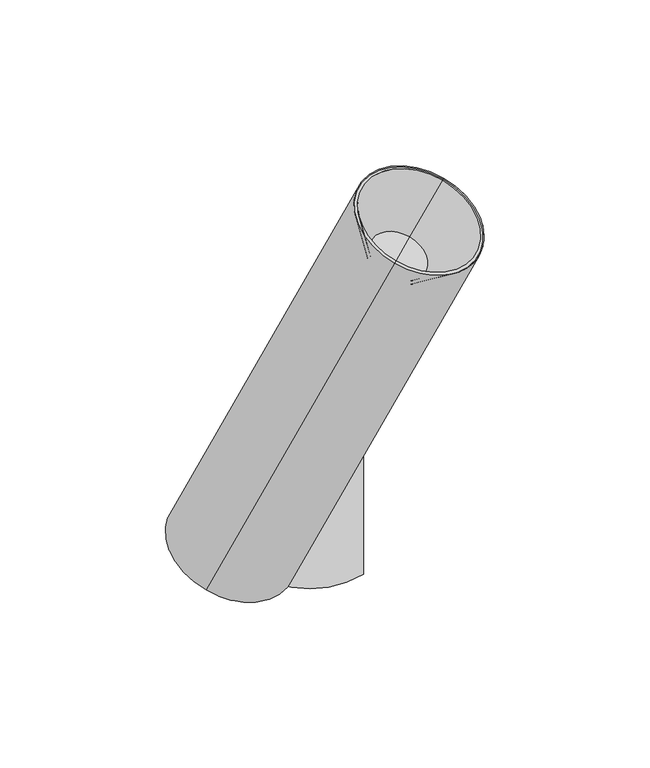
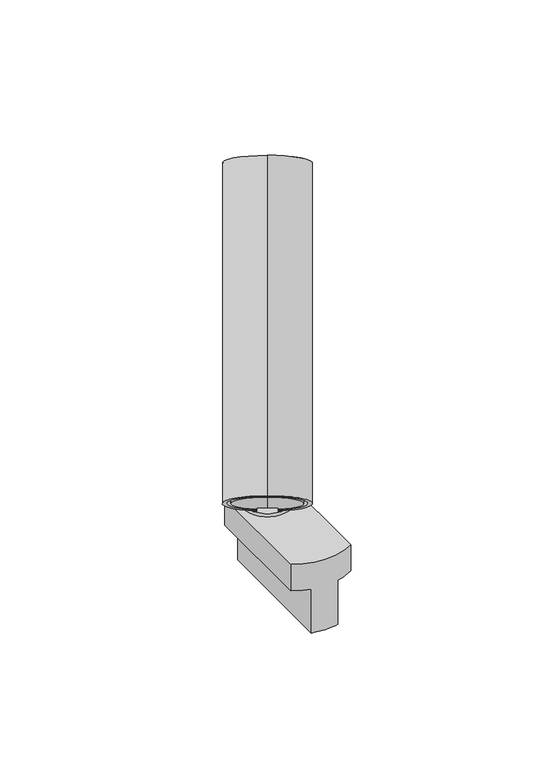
"""IFC4 building model written with IfcOpenShell, lengths in millimetres: light fixture geometry, PIPES T XS : 490lm 7,8W 930 38°."""

from ifc_helpers import new_model, si_unit, point, frame, frame_2d, origin, origin_2d, place, context, project, spatial, polyline, circle_curve, trimmed, segment, composite_curve, outline, extrude, source, transform, mapped, element, save
from ifc_brep_helpers import plane_surface, cylinder_surface, revolved_surface, advanced_brep


def light_fixture_6174c632(model_context):
    return source(origin(), model_context, "Body", "SolidModel", [
        extrude(outline(composite_curve([segment(polyline([(-39.7303383, 0.0), (-39.7303383, 8.0), (-36.7303383, 8.0), (-36.7303383, 10.0), (21.31827, 10.0), (21.31827, 2.0)]), True, "CONTINUOUS"), segment(trimmed(circle_curve(frame_2d((15.691322, 2.0)), 5.626948), [point((21.31827, 2.0))], [point((15.691322, -3.626948))], False, "CARTESIAN"), True, "CONTINUOUS"), segment(polyline([(15.691322, -3.626948), (9.8735653, -3.626948)]), True, "CONTINUOUS"), segment(trimmed(circle_curve(frame_2d((17.7182036, 2.2388678)), 9.7952104), [point((9.8735653, -3.626948))], [point((8.1822916, 0.0))], False, "CARTESIAN"), True, "CONTINUOUS"), segment(polyline([(8.1822916, 0.0), (-39.7303383, 0.0)]), True, "CONTINUOUS")], self_intersect=False)), frame((1.830127, -6.830127, 56.5303383), z_axis=(-0.8660254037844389, 0.49999999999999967, 0.0), x_axis=(0.0, 0.0, 1.0)), (0.0, 0.0, 1.0), 10.0),
        extrude(outline(composite_curve([segment(trimmed(circle_curve(origin_2d(), 12.5), [point((10.8253175, -6.25))], [point((-10.8253175, 6.25))], False, "CARTESIAN"), True, "CONTINUOUS"), segment(trimmed(circle_curve(origin_2d(), 12.5), [point((-10.8253175, 6.25))], [point((10.8253175, -6.25))], False, "CARTESIAN"), True, "CONTINUOUS")], self_intersect=False)), frame((0.0, 0.0, 15.0), z_axis=(0.0, 0.0, 1.0), x_axis=(1.0, 0.0, 0.0)), (0.0, 0.0, 1.0), 1.8),
        advanced_brep(
        [(-7.1153658, 15.2862846, -25.0), (7.1153658, 15.2862846, -25.0), (7.1153658, -53.3498174, -25.0), (-7.1153658, -53.3498174, -25.0), (-16.1153658, -49.7317664, 15.0), (16.1153658, -49.7317664, 15.0), (16.1153658, 11.6682336, 15.0), (-16.1153658, 11.6682336, 15.0), (-16.1153658, 11.6682336, 0.0), (-16.1153658, -49.7317664, 0.0), (16.1153658, 11.6682336, 0.0), (7.1153658, 15.2862846, 0.0), (-7.1153658, 15.2862846, 0.0), (16.1153658, -49.7317664, 0.0), (-7.1153658, -53.3498174, 0.0), (7.1153658, -53.3498174, 0.0)],
        [
            (0, 1, circle_curve(frame((0.0, -15.4162786, -25.0), z_axis=(0.0, 0.0, -1.0), x_axis=(1.0, 0.0, 0.0)), 31.5162786)),
            (1, 2),
            (2, 3, circle_curve(frame((0.0, -22.6472542, -25.0), z_axis=(0.0, 0.0, -1.0), x_axis=(1.0, 0.0, 0.0)), 31.5162786)),
            (3, 0),
            (4, 5, circle_curve(frame((0.0, -22.6472542, 15.0), z_axis=(0.0, 0.0, 1.0), x_axis=(1.0, 0.0, 0.0)), 31.5162786)),
            (5, 6),
            (6, 7, circle_curve(frame((0.0, -15.4162786, 15.0), z_axis=(0.0, 0.0, 1.0), x_axis=(1.0, 0.0, 0.0)), 31.5162786)),
            (7, 4),
            (7, 8),
            (8, 9),
            (9, 4),
            (6, 10),
            (10, 11, circle_curve(frame((0.0, -15.4162786, 0.0), z_axis=(0.0, 0.0, 1.0), x_axis=(1.0, 0.0, 0.0)), 31.5162786)),
            (11, 1),
            (0, 12),
            (12, 8, circle_curve(frame((0.0, -15.4162786, 0.0), z_axis=(0.0, 0.0, 1.0), x_axis=(1.0, 0.0, 0.0)), 31.5162786)),
            (5, 13),
            (13, 10),
            (9, 14, circle_curve(frame((0.0, -22.6472542, 0.0), z_axis=(0.0, 0.0, 1.0), x_axis=(1.0, 0.0, 0.0)), 31.5162786)),
            (14, 3),
            (2, 15),
            (15, 13, circle_curve(frame((0.0, -22.6472542, 0.0), z_axis=(0.0, 0.0, 1.0), x_axis=(1.0, 0.0, 0.0)), 31.5162786)),
            (12, 14),
            (15, 11),
        ],
        [
            plane_surface(frame((-16.1153658, 11.6883244, -25.0), z_axis=(0.0, 0.0, -1.0), x_axis=(0.0, -1.0, 0.0))),
            plane_surface(frame((-16.1153658, 11.6883244, 15.0), z_axis=(0.0, 0.0, 1.0), x_axis=(0.0, 1.0, 0.0))),
            plane_surface(frame((-16.1153658, -49.7317664, 15.0), z_axis=(-1.0, 0.0, 0.0), x_axis=(0.0, 0.0, -1.0))),
            cylinder_surface(frame((0.0, -15.4162786, -25.0), z_axis=(0.0, 0.0, 1.0), x_axis=(1.0, 0.0, 0.0)), 31.5162786),
            plane_surface(frame((16.1153658, 11.6682336, 15.0), z_axis=(1.0, 0.0, 0.0), x_axis=(0.0, 0.0, -1.0))),
            cylinder_surface(frame((0.0, -22.6472542, -25.0), z_axis=(0.0, 0.0, 1.0), x_axis=(1.0, 0.0, 0.0)), 31.5162786),
            plane_surface(frame((-7.1153658, -58.6979838, 0.0), z_axis=(0.0, 0.0, -1.0), x_axis=(-1.0, 0.0, 0.0))),
            plane_surface(frame((-7.1153658, 21.3020162, 0.0), z_axis=(-1.0, 0.0, 0.0), x_axis=(0.0, 0.0, -1.0))),
            plane_surface(frame((7.1153658, 11.6883244, 0.0), z_axis=(0.0, 0.0, -1.0), x_axis=(0.0, 1.0, 0.0))),
            plane_surface(frame((7.1153658, -58.6979838, 0.0), z_axis=(1.0, 0.0, 0.0), x_axis=(0.0, 0.0, -1.0))),
        ],
        [
            (0, [[1, 2, 3, 4]]),
            (1, [[5, 6, 7, 8]]),
            (2, [[9, 10, 11, -8]]),
            (3, [[12, 13, 14, -1, 15, 16, -9, -7]]),
            (4, [[17, 18, -12, -6]]),
            (5, [[-11, 19, 20, -3, 21, 22, -17, -5]]),
            (6, [[-19, -10, -16, 23]]),
            (7, [[-15, -4, -20, -23]]),
            (8, [[-13, -18, -22, 24]]),
            (9, [[-21, -2, -14, -24]]),
        ],
    ),
        advanced_brep(
        [(4.330127, -2.5, 80.0710678), (7.6521423, 3.2538992, 73.4270373), (-12.500401, -31.6513296, 33.1219508), (-13.2307628, -32.9163535, 34.5826745), (-11.1094425, -29.2421189, 38.8253152), (-13.7010959, -33.7309942, 44.008622), (-4.330127, 2.5, 80.0710678), (-22.3613499, -28.7309942, 44.008622), (-19.7696965, -24.2421189, 38.8253152), (-21.8910169, -27.9163535, 34.5826745), (-21.160655, -26.6513296, 33.1219508), (-1.0081118, 8.2538992, 73.4270373), (-18.0312229, -31.2309942, 44.008622), (3.5355339, 6.1237244, 73.0), (40.3050865, 69.8104577, 146.5391052), (-31.4662518, -54.5011468, 62.3933983), (25.4558441, 44.0908154, 176.2375901), (-30.759145, -53.2764019, 60.9791847), (-28.6378246, -49.6021673, 65.2218254), (-21.9203102, -37.967091, 51.7867966), (22.8041937, 39.4980221, 155.37794), (26.3397276, 45.6217465, 148.3068722), (29.8752615, 51.7454708, 141.2358044)],
        [
            (0, 1),
            (1, 2),
            (2, 3),
            (3, 4),
            (4, 5),
            (5, 0),
            (6, 7),
            (7, 8),
            (8, 9),
            (9, 10),
            (10, 11),
            (11, 6),
            (5, 12),
            (12, 7),
            (6, 0),
            (11, 13, circle_curve(frame((-3.8890873, -6.7360968, 87.8492424), z_axis=(-0.3535533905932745, -0.6123724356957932, -0.7071067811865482), x_axis=(0.3535533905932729, 0.612372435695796, -0.7071067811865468)), 21.0)),
            (13, 1, circle_curve(frame((-3.8890873, -6.7360968, 87.8492424), z_axis=(-0.3535533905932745, -0.6123724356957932, -0.7071067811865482), x_axis=(0.3535533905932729, 0.612372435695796, -0.7071067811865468)), 21.0)),
            (14, 13),
            (10, 15, circle_curve(frame((-24.0416306, -41.6413256, 47.5441559), z_axis=(0.3535533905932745, 0.6123724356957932, 0.7071067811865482), x_axis=(0.3535533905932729, 0.612372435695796, -0.7071067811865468)), 21.0)),
            (15, 16),
            (16, 14, circle_curve(frame((32.8804653, 56.9506365, 161.3883476), z_axis=(-0.3535533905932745, -0.6123724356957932, -0.7071067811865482), x_axis=(0.3535533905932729, 0.612372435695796, -0.7071067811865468)), 21.0)),
            (15, 2, circle_curve(frame((-24.0416306, -41.6413256, 47.5441559), z_axis=(0.3535533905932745, 0.6123724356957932, 0.7071067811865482), x_axis=(0.3535533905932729, 0.612372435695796, -0.7071067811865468)), 21.0)),
            (14, 16, circle_curve(frame((32.8804653, 56.9506365, 161.3883476), z_axis=(-0.3535533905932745, -0.6123724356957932, -0.7071067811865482), x_axis=(0.3535533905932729, 0.612372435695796, -0.7071067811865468)), 21.0)),
            (9, 17, circle_curve(frame((-24.0416306, -41.6413256, 47.5441559), z_axis=(0.3535533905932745, 0.6123724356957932, 0.7071067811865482), x_axis=(0.3535533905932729, 0.612372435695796, -0.7071067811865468)), 19.0)),
            (17, 15),
            (17, 3, circle_curve(frame((-24.0416306, -41.6413256, 47.5441559), z_axis=(0.3535533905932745, 0.6123724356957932, 0.7071067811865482), x_axis=(0.3535533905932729, 0.612372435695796, -0.7071067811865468)), 19.0)),
            (8, 18, circle_curve(frame((-21.9203102, -37.967091, 51.7867966), z_axis=(0.3535533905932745, 0.6123724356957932, 0.7071067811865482), x_axis=(0.3535533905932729, 0.612372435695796, -0.7071067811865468)), 19.0)),
            (18, 17),
            (18, 4, circle_curve(frame((-21.9203102, -37.967091, 51.7867966), z_axis=(0.3535533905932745, 0.6123724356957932, 0.7071067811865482), x_axis=(0.3535533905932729, 0.612372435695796, -0.7071067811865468)), 19.0)),
            (12, 19),
            (19, 18),
            (20, 21),
            (21, 22),
            (22, 20, circle_curve(frame((26.3397276, 45.6217465, 148.3068722), z_axis=(0.3535533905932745, 0.6123724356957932, 0.7071067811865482), x_axis=(0.3535533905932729, 0.612372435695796, -0.7071067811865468)), 10.0)),
            (20, 22, circle_curve(frame((26.3397276, 45.6217465, 148.3068722), z_axis=(0.3535533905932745, 0.6123724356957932, 0.7071067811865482), x_axis=(0.3535533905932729, 0.612372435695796, -0.7071067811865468)), 10.0)),
            (16, 20),
            (22, 14),
        ],
        [
            plane_surface(frame((4.330127, -2.5, 80.0710678), z_axis=(-0.8660254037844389, 0.4999999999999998, 0.0), x_axis=(0.3535533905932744, 0.6123724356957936, 0.7071067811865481))),
            plane_surface(frame((-4.330127, 2.5, 80.0710678), z_axis=(0.8660254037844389, -0.4999999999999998, 0.0), x_axis=(-0.3535533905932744, -0.6123724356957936, -0.7071067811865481))),
            plane_surface(frame((-4.330127, 2.5, 80.0710678), z_axis=(0.3535533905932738, 0.6123724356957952, -0.7071067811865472), x_axis=(0.8660254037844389, -0.4999999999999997, 0.0))),
            plane_surface(frame((2.7409408, 14.7474487, 65.9289322), z_axis=(-0.35355339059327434, -0.6123724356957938, -0.707106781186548), x_axis=(0.866025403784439, -0.4999999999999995, 0.0))),
            cylinder_surface(frame((-27.0299985, -46.8173307, 41.56742), z_axis=(-0.35355339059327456, -0.6123724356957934, -0.7071067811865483), x_axis=(0.3535533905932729, 0.612372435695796, -0.7071067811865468)), 21.0),
            plane_surface(frame((-24.0416306, -41.6413256, 47.5441559), z_axis=(-0.35355339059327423, -0.6123724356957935, -0.7071067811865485), x_axis=(0.3535533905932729, 0.612372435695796, -0.7071067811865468))),
            revolved_surface(polyline([(-17.32411615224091, -30.006249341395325, 34.10912701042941), (-15.202795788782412, -26.332014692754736, 38.35176773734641)]), (-27.0299985, -46.8173307, 41.56742), (-0.35355339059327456, -0.6123724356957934, -0.7071067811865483)),
            plane_surface(frame((-21.9203102, -37.967091, 51.7867966), z_axis=(-0.35355339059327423, -0.6123724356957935, -0.7071067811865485), x_axis=(0.3535533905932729, 0.612372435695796, -0.7071067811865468))),
            plane_surface(frame((26.3397276, 45.6217465, 148.3068722), z_axis=(0.35355339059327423, 0.6123724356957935, 0.7071067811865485), x_axis=(0.3535533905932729, 0.612372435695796, -0.7071067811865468))),
            revolved_surface(polyline([(29.8752615, 51.7454708, 141.2358044), (40.3050865, 69.8104577, 146.5391052)]), (-27.0299985, -46.8173307, 41.56742), (-0.35355339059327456, -0.6123724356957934, -0.7071067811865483)),
        ],
        [
            (0, [[1, 2, 3, 4, 5, 6]]),
            (1, [[7, 8, 9, 10, 11, 12]]),
            (2, [[-6, 13, 14, -7, 15]]),
            (3, [[-12, 16, 17, -1, -15]]),
            (4, [[18, -16, -11, 19, 20, 21]]),
            (4, [[22, -2, -17, -18, 23, -20]]),
            (5, [[-19, -10, 24, 25]]),
            (5, [[26, -3, -22, -25]]),
            (6, [[-24, -9, 27, 28]]),
            (6, [[29, -4, -26, -28]]),
            (7, [[-27, -8, -14, 30, 31]]),
            (7, [[-30, -13, -5, -29, -31]]),
            (8, [[32, 33, 34]]),
            (8, [[-32, 35, -33]]),
            (9, [[36, -34, 37, -21]]),
            (9, [[-37, -35, -36, -23]]),
        ],
    ),
        advanced_brep(
        [(-15.1153095, -36.180484, 41.1801948), (-13.2621856, -32.9707792, 37.473947), (-13.9692923, -34.1955241, 36.0597335), (-15.8224162, -37.4052288, 39.7659813), (-24.4826703, -32.4052288, 39.7659813), (-22.6295464, -29.1955241, 36.0597335), (-21.9224396, -27.9707792, 37.473947), (-23.7755635, -31.180484, 41.1801948), (-20.1525433, -34.9052288, 39.7659813), (-19.4454365, -33.680484, 41.1801948), (-23.3345238, -40.4165808, 48.9583694), (-29.342684, -50.8230196, 60.9746899), (-30.0497908, -52.0477644, 59.5604764), (-24.0416306, -41.6413256, 47.5441559)],
        [
            (0, 1),
            (1, 2),
            (2, 3),
            (3, 0),
            (4, 5),
            (5, 6),
            (6, 7),
            (7, 4),
            (3, 8),
            (8, 4),
            (7, 9),
            (9, 0),
            (10, 9),
            (6, 11, circle_curve(frame((-23.3345238, -40.4165808, 48.9583694), z_axis=(0.3535533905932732, 0.612372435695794, 0.7071067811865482), x_axis=(0.35355339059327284, 0.6123724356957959, -0.7071067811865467)), 16.9936434)),
            (11, 10),
            (11, 1, circle_curve(frame((-23.3345238, -40.4165808, 48.9583694), z_axis=(0.3535533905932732, 0.612372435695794, 0.7071067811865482), x_axis=(0.35355339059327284, 0.6123724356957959, -0.7071067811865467)), 16.9936434)),
            (5, 12, circle_curve(frame((-24.0416306, -41.6413256, 47.5441559), z_axis=(0.3535533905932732, 0.612372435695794, 0.7071067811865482), x_axis=(0.35355339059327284, 0.6123724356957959, -0.7071067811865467)), 16.9936434)),
            (12, 11),
            (12, 2, circle_curve(frame((-24.0416306, -41.6413256, 47.5441559), z_axis=(0.3535533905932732, 0.612372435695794, 0.7071067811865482), x_axis=(0.35355339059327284, 0.6123724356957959, -0.7071067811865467)), 16.9936434)),
            (8, 13),
            (13, 12),
        ],
        [
            plane_surface(frame((4.330127, -2.5, 80.0710678), z_axis=(-0.8660254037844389, 0.4999999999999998, 0.0), x_axis=(0.3535533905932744, 0.6123724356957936, 0.7071067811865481))),
            plane_surface(frame((-4.330127, 2.5, 80.0710678), z_axis=(0.8660254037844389, -0.4999999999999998, 0.0), x_axis=(-0.3535533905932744, -0.6123724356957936, -0.7071067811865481))),
            plane_surface(frame((-4.330127, 2.5, 80.0710678), z_axis=(0.3535533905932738, 0.6123724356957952, -0.7071067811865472), x_axis=(0.8660254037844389, -0.4999999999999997, 0.0))),
            plane_surface(frame((-23.3345238, -40.4165808, 48.9583694), z_axis=(0.35355339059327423, 0.6123724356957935, 0.7071067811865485), x_axis=(0.3535533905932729, 0.612372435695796, -0.7071067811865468))),
            cylinder_surface(frame((22.6442529, 39.2209965, 140.9159227), z_axis=(-0.3535533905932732, -0.612372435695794, -0.7071067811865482), x_axis=(0.35355339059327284, 0.6123724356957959, -0.7071067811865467)), 16.9936434),
            plane_surface(frame((-24.0416306, -41.6413256, 47.5441559), z_axis=(-0.35355339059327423, -0.6123724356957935, -0.7071067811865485), x_axis=(0.3535533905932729, 0.612372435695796, -0.7071067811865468))),
        ],
        [
            (0, [[1, 2, 3, 4]]),
            (1, [[5, 6, 7, 8]]),
            (2, [[9, 10, -8, 11, 12, -4]]),
            (3, [[13, -11, -7, 14, 15]]),
            (3, [[16, -1, -12, -13, -15]]),
            (4, [[-14, -6, 17, 18]]),
            (4, [[19, -2, -16, -18]]),
            (5, [[-17, -5, -10, 20, 21]]),
            (5, [[-20, -9, -3, -19, -21]]),
        ],
    ),
        advanced_brep(
        [(23.3588567, 40.4587267, 155.6828275), (26.693281, 46.2341189, 149.013979), (30.0277053, 52.0095111, 142.3451304), (25.8671747, 44.8032608, 175.4149289), (39.893756, 69.0980122, 147.3617664), (25.4558441, 44.0908154, 176.2375901), (40.3050865, 69.8104577, 146.5391052), (22.8041937, 39.4980221, 155.37794), (29.8752615, 51.7454708, 141.2358044), (26.3397276, 45.6217465, 148.3068722)],
        [
            (0, 1),
            (1, 2),
            (2, 0, circle_curve(frame((26.693281, 46.2341189, 149.013979), z_axis=(0.3535533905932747, 0.6123724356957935, 0.7071067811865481), x_axis=(0.3535533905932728, 0.6123724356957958, -0.707106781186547)), 9.431176)),
            (0, 2, circle_curve(frame((26.693281, 46.2341189, 149.013979), z_axis=(0.3535533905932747, 0.6123724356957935, 0.7071067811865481), x_axis=(0.3535533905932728, 0.6123724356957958, -0.707106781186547)), 9.431176)),
            (3, 0),
            (2, 4),
            (4, 3, circle_curve(frame((32.8804653, 56.9506365, 161.3883476), z_axis=(0.3535533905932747, 0.6123724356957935, 0.7071067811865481), x_axis=(0.3535533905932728, 0.6123724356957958, -0.707106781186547)), 19.8365814)),
            (3, 4, circle_curve(frame((32.8804653, 56.9506365, 161.3883476), z_axis=(0.3535533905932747, 0.6123724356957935, 0.7071067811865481), x_axis=(0.3535533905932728, 0.6123724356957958, -0.707106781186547)), 19.8365814)),
            (5, 3),
            (4, 6),
            (6, 5, circle_curve(frame((32.8804653, 56.9506365, 161.3883476), z_axis=(0.3535533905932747, 0.6123724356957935, 0.7071067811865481), x_axis=(0.3535533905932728, 0.6123724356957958, -0.707106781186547)), 21.0)),
            (5, 6, circle_curve(frame((32.8804653, 56.9506365, 161.3883476), z_axis=(0.3535533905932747, 0.6123724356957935, 0.7071067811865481), x_axis=(0.3535533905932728, 0.6123724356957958, -0.707106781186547)), 21.0)),
            (7, 5),
            (6, 8),
            (8, 7, circle_curve(frame((26.3397276, 45.6217465, 148.3068722), z_axis=(0.3535533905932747, 0.6123724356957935, 0.7071067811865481), x_axis=(0.3535533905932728, 0.6123724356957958, -0.707106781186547)), 10.0)),
            (7, 8, circle_curve(frame((26.3397276, 45.6217465, 148.3068722), z_axis=(0.3535533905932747, 0.6123724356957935, 0.7071067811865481), x_axis=(0.3535533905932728, 0.6123724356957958, -0.707106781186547)), 10.0)),
            (9, 7),
            (8, 9),
        ],
        [
            plane_surface(frame((26.693281, 46.2341189, 149.013979), z_axis=(0.35355339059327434, 0.6123724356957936, 0.7071067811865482), x_axis=(0.3535533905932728, 0.6123724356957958, -0.707106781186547))),
            revolved_surface(polyline([(30.0277053, 52.0095111, 142.3451304), (39.893756, 69.0980122, 147.3617664)]), (-34.1010663, -59.0647795, 27.4252844), (-0.3535533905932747, -0.6123724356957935, -0.7071067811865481)),
            plane_surface(frame((32.8804653, 56.9506365, 161.3883476), z_axis=(0.35355339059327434, 0.6123724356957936, 0.7071067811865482), x_axis=(0.3535533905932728, 0.6123724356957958, -0.707106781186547))),
            revolved_surface(polyline([(40.3050865, 69.8104577, 146.5391052), (29.8752615, 51.7454708, 141.2358044)]), (-34.1010663, -59.0647795, 27.4252844), (-0.3535533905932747, -0.6123724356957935, -0.7071067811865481)),
            plane_surface(frame((26.3397276, 45.6217465, 148.3068722), z_axis=(-0.35355339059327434, -0.6123724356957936, -0.7071067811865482), x_axis=(0.3535533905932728, 0.6123724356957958, -0.707106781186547))),
        ],
        [
            (0, [[1, 2, 3]]),
            (0, [[-2, -1, 4]]),
            (1, [[5, -3, 6, 7]]),
            (1, [[-6, -4, -5, 8]]),
            (2, [[9, -7, 10, 11]]),
            (2, [[-10, -8, -9, 12]]),
            (3, [[13, -11, 14, 15]]),
            (3, [[-14, -12, -13, 16]]),
            (4, [[17, -15, 18]]),
            (4, [[-18, -16, -17]]),
        ],
    ),
    ])


if __name__ == "__main__":
    model = new_model("IFC4")
    model_context = context("Model", 3, world=origin())
    ifc_project = project(units=[si_unit("LENGTHUNIT", "METRE", prefix="MILLI")], contexts=[model_context])
    site = spatial("IfcSite", under=ifc_project)
    building = spatial("IfcBuilding", under=site)
    placement = place(None, origin())
    light_fixture_shape = light_fixture_6174c632(model_context)
    element("IfcLightFixture", 1, ObjectType="PIPES T XS : 490lm 7,8W 930 38°", at=placement, inside=building, context=model_context, shape_type="MappedRepresentation", body=[
        mapped(light_fixture_shape, transform((0.0, 0.0, 0.0), x_axis=(1.0, 0.0, 0.0), y_axis=(0.0, 1.0, 0.0), z_axis=(0.0, 0.0, 1.0))),
    ])
    save(model, "model.ifc")
